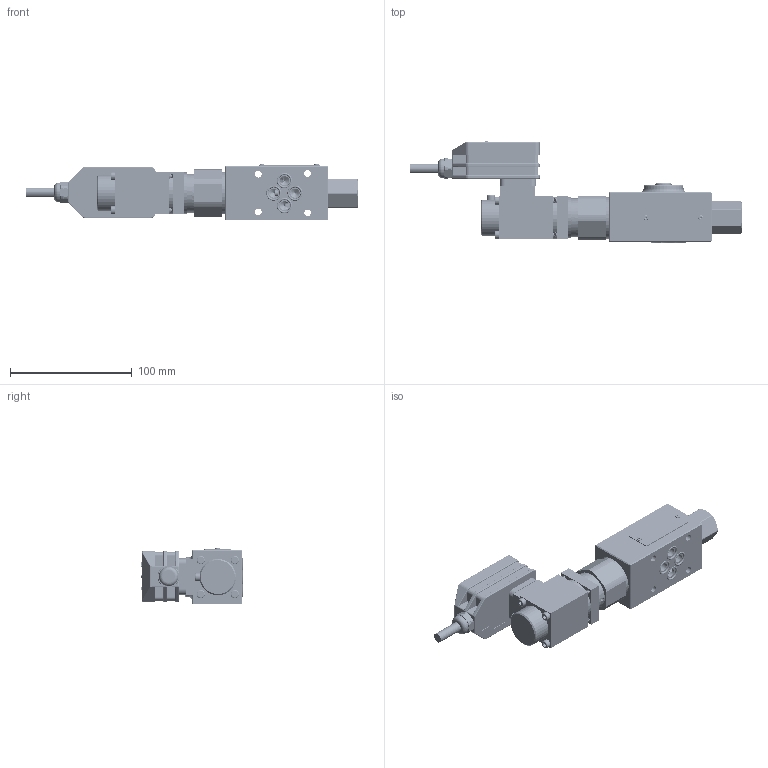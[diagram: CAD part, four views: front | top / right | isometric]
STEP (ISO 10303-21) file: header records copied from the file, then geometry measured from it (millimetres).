
FILE_DESCRIPTION(/* description */ (''),/* implementation_level */ '2;1');
FILE_NAME(/* name */ 'ZDREE6.stp',/* time_stamp */ '2024-03-28T09:49:34+08:00',/* author */ (''),/* organization */ (''),/* preprocessor_version */ 'ST-DEVELOPER v16.7',/* originating_system */ 'SIEMENS PLM Software NX 12.0',/* authorisation */ '');
FILE_SCHEMA (('AUTOMOTIVE_DESIGN { 1 0 10303 214 3 1 1 1 }'));
Products named in the file (1): ZDREE6
Bounding box: 273.08 x 83.18 x 46.8 mm (x, y, z)
Volume: 194124 mm3; surface area: 132803 mm2
Topology: 44 solids, 57 shells, 2319 faces, 5786 edges, 3742 vertices
Faces by surface type: plane 1202, cylinder 770, cone 140, bspline 94, torus 93, sphere 17, extrusion 2, revolution 1
Full cylindrical faces by diameter (mm): 0.6 x3, 1 x3, 1.25 x1, 1.5 x5, 1.62 x1, 1.664 x2, 1.8 x3, 1.9 x2, 2 x1, 2.5 x6, 3 x2, 3.3 x9, 3.464 x1, 3.9 x1, 4 x117, 4.2 x1, 4.5 x4, 4.8 x2, 5 x2, 5.4 x1, 5.5 x4, 5.7 x1, 6 x6, 6.7 x3, 6.78 x5, 7 x9, 7.4 x1, 7.5 x10, 8.3 x2, 9 x14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
Entity records: 151157 total; most frequent: CARTESIAN_POINT 96774, DIRECTION 10130, ORIENTED_EDGE 9846, EDGE_CURVE 4923, AXIS2_PLACEMENT_3D 3624, VERTEX_POINT 3372, VECTOR 2881, LINE 2879
